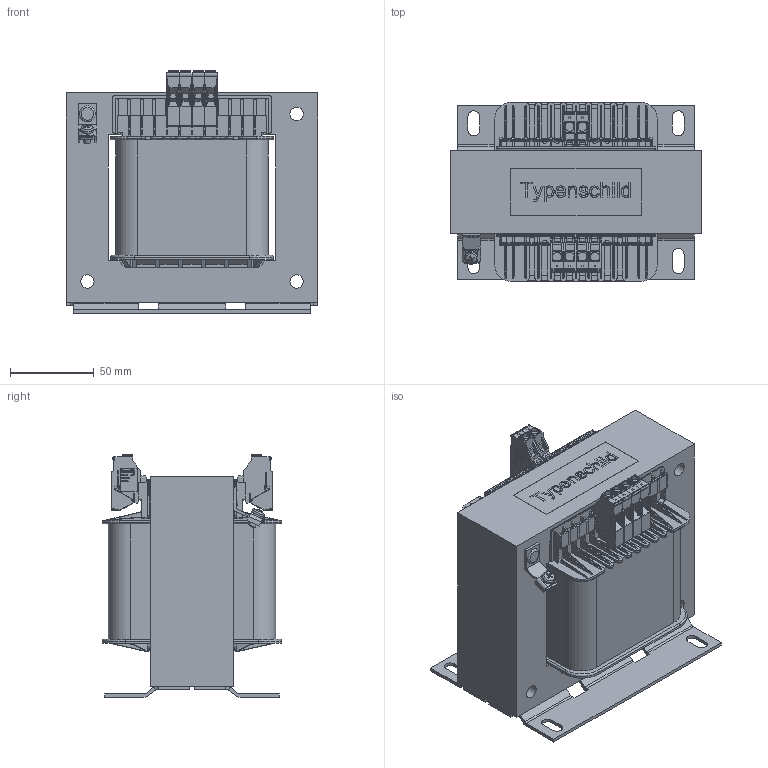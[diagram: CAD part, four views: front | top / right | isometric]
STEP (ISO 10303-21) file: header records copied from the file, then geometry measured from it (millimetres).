
FILE_DESCRIPTION(/* description */ (''),/* implementation_level */ '2;1');
FILE_NAME(/* name */ 'STN0,63 100-690V_42V.stp',/* time_stamp */ '2023-08-31T12:37:12+02:00',/* author */ ('EnneJ'),/* organization */ (''),/* preprocessor_version */ 'ST-DEVELOPER v19.2',/* originating_system */ 'Autodesk Inventor 2023',/* authorisation */ '');
FILE_SCHEMA (('AUTOMOTIVE_DESIGN { 1 0 10303 214 3 1 1 }'));
Products named in the file (12): X0001 STN 002; Erdung 45°; Bauteil2; erd 90 001; M4-8; DIN7337 A4,8x16; Bauteil28; EI150Na_49_6_AK_25272_0_1Ka_Wz711_1; Norm (DIN); FUP_EI150; 1222_TKS_4_1; Leistungsschild 78x28
Assembly tree (17 placements, depth 3):
  X0001 STN 002
    Erdung 45°
      Bauteil2
      erd 90 001
      M4-8
    DIN7337 A4,8x16
    Bauteil28
    EI150Na_49_6_AK_25272_0_1Ka_Wz711_1
    Norm (DIN)
    FUP_EI150  x2
    1222_TKS_4_1  x6
    Leistungsschild 78x28
Bounding box: 150.3 x 107 x 144.75 mm (x, y, z)
Volume: 1231259.5 mm3; surface area: 268864 mm2
Topology: 16 solids, 16 shells, 9261 faces, 25929 edges, 16916 vertices
Faces by surface type: plane 7625, cylinder 1074, bspline 319, torus 230, cone 12, sphere 1
Full cylindrical faces by diameter (mm): 3.242 x1, 3.621 x1, 4 x2, 4.5 x1, 4.8 x1, 5 x1, 8 x4, 9.5 x1
Entity records: 81606 total; most frequent: CARTESIAN_POINT 17032, ORIENTED_EDGE 13852, DIRECTION 12687, EDGE_CURVE 6926, LINE 5511, VECTOR 5511, VERTEX_POINT 4471, AXIS2_PLACEMENT_3D 3588
